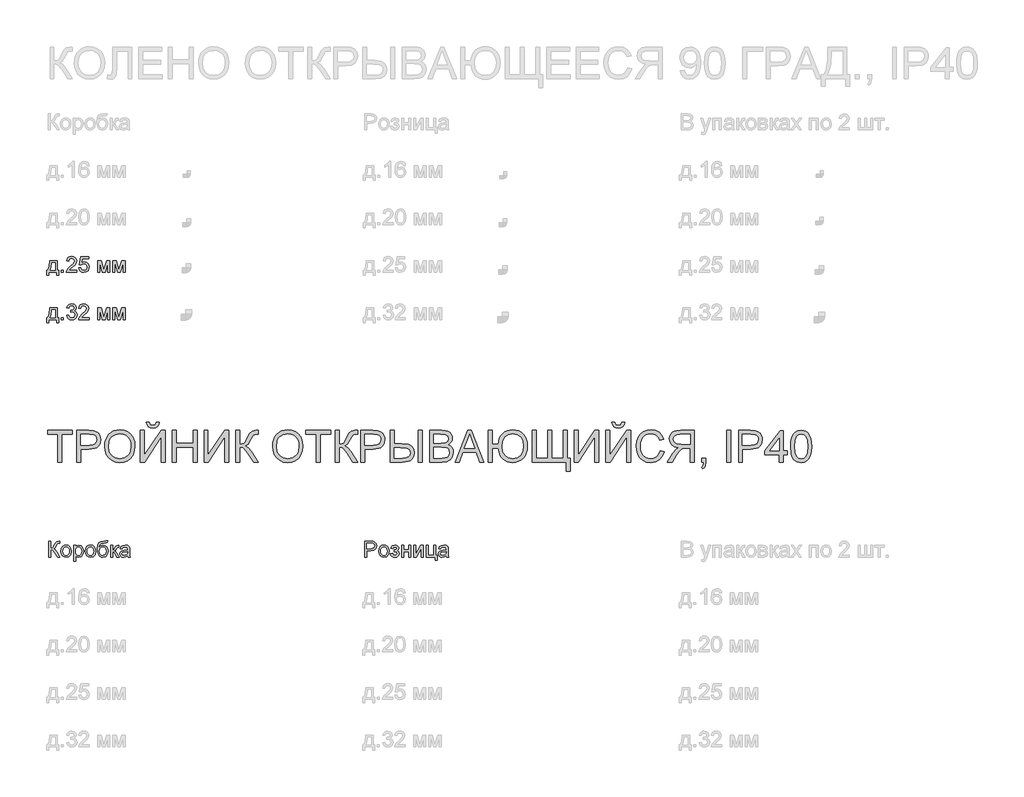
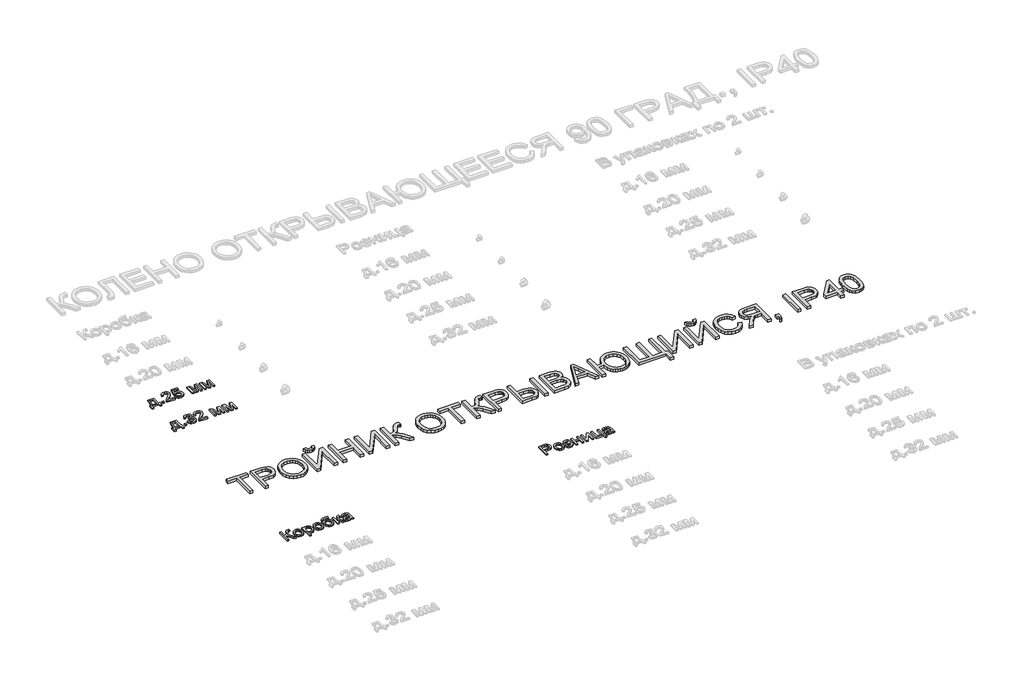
# One storey, part 68 of 98: 5 proxies.
"""IFC4 building model written with IfcOpenShell, lengths in millimetres."""

from ifc_helpers import new_model, si_unit, origin, origin_with_axes, place, context, project, spatial, polyline, outline, extrude, element, save

model = new_model("IFC4")

# Units and contexts
model_context = context("Model", 3, world=origin())
ifc_project = project(units=[si_unit("LENGTHUNIT", "METRE", prefix="MILLI")], contexts=[model_context])

# Site, building, storey
site = spatial("IfcSite", under=ifc_project)
building = spatial("IfcBuilding", under=site)
storey = spatial("IfcBuildingStorey", under=building, Name="Этаж 01", Elevation=0.0)

# Proxies
placement = place(None, origin())
element("IfcBuildingElementProxy", 1, Name="100", ObjectType="100", at=placement, inside=storey, context=model_context, shape_type="SweptSolid", body=[
    extrude(outline(polyline([(-26.9858135, -15985.7395637), (20.1030819, -15985.7395637), (20.1030819, -16046.9551277), (29.520861, -16046.9551277), (29.520861, -16079.9173545), (16.9638222, -16079.9173545), (16.9638222, -16059.5121665), (-34.8339627, -16059.5121665), (-34.8339627, -16079.9173545), (-47.3910015, -16079.9173545), (-47.3910015, -16046.9551277), (-39.5428522, -16046.9551277), (-29.8430303, -16023.0060098), (-26.9858135, -15985.7395637)]), holes=[polyline([(-15.9984045, -15998.2966025), (-18.9414605, -16026.905559), (-25.4161836, -16046.9551277), (7.5460431, -16046.9551277), (7.5460431, -15998.2966025), (-15.9984045, -15998.2966025)])]), origin_with_axes(), (0.0, 0.0, 1.0), 10.0),
    extrude(outline(polyline([(46.7867893, -16059.5121665), (46.7867893, -16046.9551277), (59.3438281, -16046.9551277), (59.3438281, -16059.5121665), (46.7867893, -16059.5121665)])), origin_with_axes(), (0.0, 0.0, 1.0), 10.0),
    extrude(outline(polyline([(144.1038398, -16046.9551277), (144.1038398, -16059.5121665), (78.1793862, -16059.5121665), (79.5282869, -16050.8546768), (87.1557069, -16037.5250859), (102.8765308, -16022.9692216), (124.5570431, -16002.0489988), (129.9771711, -15987.8242283), (124.8636114, -15976.3095219), (111.509495, -15971.6128951), (97.5912928, -15976.1991573), (92.3060548, -15988.8788234), (79.7490161, -15987.3091935), (82.7932396, -15975.1629563), (89.3752616, -15966.2908689), (99.1517256, -15960.8646095), (111.7792751, -15959.0558563), (124.4987951, -15961.0669445), (134.256865, -15967.1002093), (140.4648737, -15976.1133182), (142.5342099, -15987.0639389), (140.3023925, -15998.9710528), (132.8834389, -16011.2828369), (114.8940093, -16028.4874515), (100.4485097, -16040.5662437), (94.7831269, -16046.9551277), (144.1038398, -16046.9551277)])), origin_with_axes(), (0.0, 0.0, 1.0), 10.0),
    extrude(outline(polyline([(156.6608785, -16032.8284591), (169.2179173, -16031.2588292), (175.5454876, -16044.1960127), (188.6666121, -16048.5247575), (197.6674583, -16047.019507), (204.4119615, -16042.5037555), (208.6242103, -16035.4986692), (210.0282933, -16026.5254142), (204.7675808, -16011.6139307), (198.1610333, -16007.5120464), (188.8628158, -16006.1447517), (177.8386187, -16008.3275182), (170.7875471, -16013.9929009), (158.2305084, -16012.4232711), (169.2179173, -15960.6254862), (217.8764425, -15960.6254862), (217.8764425, -15973.1825249), (179.3714604, -15973.1825249), (174.0003832, -16000.847251), (182.9705725, -15995.4025974), (192.3699575, -15993.5877129), (204.1023275, -15995.8379245), (213.8420033, -16002.5885591), (220.3994999, -16012.8769922), (222.5853321, -16025.7405993), (220.6171634, -16038.2976381), (214.7126574, -16049.0397923), (203.4064174, -16058.0712953), (188.6175612, -16061.0817963), (176.2843173, -16059.1473501), (166.4588023, -16053.3440117), (159.7234961, -16044.3462312), (156.6608785, -16032.8284591)])), origin_with_axes(), (0.0, 0.0, 1.0), 10.0),
    extrude(outline(polyline([(275.9527468, -15985.7395637), (297.5596827, -15985.7395637), (314.2124743, -16044.7968867), (332.1651157, -15985.7395637), (352.8646093, -15985.7395637), (352.8646093, -16059.5121665), (340.3075705, -16059.5121665), (340.3075705, -16000.111487), (322.2568273, -16059.5121665), (305.7757139, -16059.5121665), (288.5097856, -15997.2665329), (288.5097856, -16059.5121665), (275.9527468, -16059.5121665), (275.9527468, -15985.7395637)])), origin_with_axes(), (0.0, 0.0, 1.0), 10.0),
    extrude(outline(polyline([(371.7001674, -15985.7395637), (393.3071033, -15985.7395637), (409.9598949, -16044.7968867), (427.9125363, -15985.7395637), (448.6120299, -15985.7395637), (448.6120299, -16059.5121665), (436.0549911, -16059.5121665), (436.0549911, -16000.111487), (418.0042479, -16059.5121665), (401.5231345, -16059.5121665), (384.2572062, -15997.2665329), (384.2572062, -16059.5121665), (371.7001674, -16059.5121665), (371.7001674, -15985.7395637)])), origin_with_axes(), (0.0, 0.0, 1.0), 10.0),
])
element("IfcBuildingElementProxy", 2, Name="100", ObjectType="100", at=placement, inside=storey, context=model_context, shape_type="SweptSolid", body=[
    extrude(outline(polyline([(-26.9858135, -16285.7395637), (20.1030819, -16285.7395637), (20.1030819, -16346.9551277), (29.520861, -16346.9551277), (29.520861, -16379.9173545), (16.9638222, -16379.9173545), (16.9638222, -16359.5121665), (-34.8339627, -16359.5121665), (-34.8339627, -16379.9173545), (-47.3910015, -16379.9173545), (-47.3910015, -16346.9551277), (-39.5428522, -16346.9551277), (-29.8430303, -16323.0060098), (-26.9858135, -16285.7395637)]), holes=[polyline([(-15.9984045, -16298.2966025), (-18.9414605, -16326.905559), (-25.4161836, -16346.9551277), (7.5460431, -16346.9551277), (7.5460431, -16298.2966025), (-15.9984045, -16298.2966025)])]), origin_with_axes(), (0.0, 0.0, 1.0), 10.0),
    extrude(outline(polyline([(46.7867893, -16359.5121665), (46.7867893, -16346.9551277), (59.3438281, -16346.9551277), (59.3438281, -16359.5121665), (46.7867893, -16359.5121665)])), origin_with_axes(), (0.0, 0.0, 1.0), 10.0),
    extrude(outline(polyline([(79.7490161, -16332.8284591), (92.3060548, -16331.2588292), (99.2344991, -16344.4780556), (112.196208, -16348.5247575), (120.8046467, -16347.1329373), (127.4510481, -16342.9574767), (133.1164308, -16329.1741646), (127.500099, -16316.1879302), (113.2262776, -16311.049845), (104.4216352, -16312.4232711), (105.8195868, -16299.8662323), (107.830675, -16300.0133851), (122.079971, -16296.4081416), (126.8256487, -16291.8341421), (128.4075413, -16285.3226308), (123.8212791, -16275.5001815), (112.0000043, -16271.6128951), (100.0315767, -16275.5369697), (93.8756847, -16287.3091935), (81.3186459, -16285.7395637), (85.01586, -16274.4639805), (91.5948163, -16266.0456142), (100.5956625, -16260.8032958), (111.5585459, -16259.0558563), (126.7030214, -16262.5016843), (137.2980228, -16271.9194634), (140.9645801, -16284.5868668), (137.4819638, -16296.1628869), (127.181268, -16304.47702), (140.8664782, -16313.0609332), (145.6734696, -16329.3948938), (143.2699739, -16341.6331015), (136.0594868, -16351.860221), (125.1763111, -16358.7764025), (111.7547496, -16361.0817963), (99.6146438, -16359.1136276), (89.7308809, -16353.2091216), (82.8576189, -16344.1776186), (79.7490161, -16332.8284591)])), origin_with_axes(), (0.0, 0.0, 1.0), 10.0),
    extrude(outline(polyline([(221.0157022, -16346.9551277), (221.0157022, -16359.5121665), (155.0912487, -16359.5121665), (156.4401493, -16350.8546768), (164.0675694, -16337.5250859), (179.7883933, -16322.9692216), (201.4689055, -16302.0489988), (206.8890336, -16287.8242283), (201.7754739, -16276.3095219), (188.4213574, -16271.6128951), (174.5031553, -16276.1991573), (169.2179173, -16288.8788234), (156.6608785, -16287.3091935), (159.705102, -16275.1629563), (166.2871241, -16266.2908689), (176.0635881, -16260.8646095), (188.6911376, -16259.0558563), (201.4106576, -16261.0669445), (211.1687275, -16267.1002093), (217.3767361, -16276.1133182), (219.4460724, -16287.0639389), (217.2142549, -16298.9710528), (209.7953014, -16311.2828369), (191.8058718, -16328.4874515), (177.3603721, -16340.5662437), (171.6949894, -16346.9551277), (221.0157022, -16346.9551277)])), origin_with_axes(), (0.0, 0.0, 1.0), 10.0),
    extrude(outline(polyline([(275.9527468, -16285.7395637), (297.5596827, -16285.7395637), (314.2124743, -16344.7968867), (332.1651157, -16285.7395637), (352.8646093, -16285.7395637), (352.8646093, -16359.5121665), (340.3075705, -16359.5121665), (340.3075705, -16300.111487), (322.2568273, -16359.5121665), (305.7757139, -16359.5121665), (288.5097856, -16297.2665329), (288.5097856, -16359.5121665), (275.9527468, -16359.5121665), (275.9527468, -16285.7395637)])), origin_with_axes(), (0.0, 0.0, 1.0), 10.0),
    extrude(outline(polyline([(371.7001674, -16285.7395637), (393.3071033, -16285.7395637), (409.9598949, -16344.7968867), (427.9125363, -16285.7395637), (448.6120299, -16285.7395637), (448.6120299, -16359.5121665), (436.0549911, -16359.5121665), (436.0549911, -16300.111487), (418.0042479, -16359.5121665), (401.5231345, -16359.5121665), (384.2572062, -16297.2665329), (384.2572062, -16359.5121665), (371.7001674, -16359.5121665), (371.7001674, -16285.7395637)])), origin_with_axes(), (0.0, 0.0, 1.0), 10.0),
])
element("IfcBuildingElementProxy", 3, Name="100", ObjectType="100", at=placement, inside=storey, context=model_context, shape_type="SweptSolid", body=[
    extrude(outline(polyline([(-33.5750144, -17759.0558563), (-21.0179757, -17759.0558563), (-21.0179757, -17803.005492), (-6.9771462, -17799.6822913), (2.8207776, -17782.8700841), (9.7492219, -17768.8292546), (17.5973711, -17761.8762849), (28.8177719, -17759.0558563), (37.0583286, -17759.2030091), (37.0583286, -17771.7600479), (34.2869509, -17771.6864715), (31.5155732, -17771.6128951), (21.7053867, -17774.6295274), (14.2496449, -17787.5544482), (5.3591634, -17803.2997976), (-3.310589, -17808.4991965), (6.3831016, -17814.1768419), (15.9419021, -17826.0103794), (37.0583286, -17859.5121665), (22.4902016, -17859.5121665), (4.6356621, -17831.2097783), (-7.9336394, -17816.4331848), (-21.0179757, -17812.4232711), (-21.0179757, -17859.5121665), (-33.5750144, -17859.5121665), (-33.5750144, -17759.0558563)])), origin_with_axes(), (0.0, 0.0, 1.0), 10.0),
    extrude(outline(polyline([(43.336848, -17822.6258651), (46.0530434, -17804.8387706), (54.2016296, -17792.3369141), (64.2693335, -17786.2116789), (76.3236003, -17784.1699338), (89.5152355, -17786.656203), (100.0519889, -17794.1150104), (106.9589734, -17805.957745), (109.2613016, -17821.5957955), (105.1900741, -17843.9384953), (93.3320112, -17856.5813732), (76.3236003, -17861.0817963), (62.9725495, -17858.6047242), (52.4480588, -17851.1735079), (45.6146507, -17839.082453), (43.336848, -17822.6258651)]), holes=[polyline([(55.8938868, -17822.6013396), (57.3470207, -17833.9658276), (61.7064223, -17842.0622972), (68.2669846, -17846.9091424), (76.3236003, -17848.5247575), (84.3434278, -17846.8999454), (90.8917273, -17842.025509), (95.2511289, -17833.8217405), (96.7042628, -17822.2089321), (95.2419319, -17811.175538), (90.8549391, -17803.189433), (84.2974425, -17798.3425877), (76.3236003, -17796.7269726), (68.2669846, -17798.3364563), (61.7064223, -17803.1649075), (57.3470207, -17811.242983), (55.8938868, -17822.6013396)])]), origin_with_axes(), (0.0, 0.0, 1.0), 10.0),
    extrude(outline(polyline([(123.3879702, -17887.7655037), (123.3879702, -17785.7395637), (135.9450089, -17785.7395637), (135.9450089, -17798.0513478), (144.627024, -17787.6402873), (156.3501969, -17784.1699338), (172.2672246, -17789.0259762), (182.6660223, -17802.7111864), (186.173164, -17822.0617793), (182.2123012, -17842.4056537), (170.7098575, -17856.2625422), (154.829618, -17861.0817963), (143.9035228, -17857.8566975), (135.9450089, -17849.7019799), (135.9450089, -17887.7655037), (123.3879702, -17887.7655037)]), holes=[polyline([(135.9450089, -17823.2144763), (137.3031066, -17834.4716653), (141.3773997, -17842.34434), (147.3892047, -17846.9796532), (154.5598379, -17848.5247575), (161.8469671, -17846.9244709), (168.0120562, -17842.1236108), (172.215108, -17833.9627619), (173.6161252, -17822.2825085), (172.2488305, -17811.0866332), (168.1469463, -17803.1035939), (162.1443384, -17798.3211279), (155.0748727, -17796.7269726), (147.9778159, -17798.4222955), (141.7452817, -17803.5082641), (137.3950771, -17811.8254628), (135.9450089, -17823.2144763)])]), origin_with_axes(), (0.0, 0.0, 1.0), 10.0),
    extrude(outline(polyline([(197.1605729, -17822.6258651), (199.8767683, -17804.8387706), (208.0253545, -17792.3369141), (218.0930585, -17786.2116789), (230.1473252, -17784.1699338), (243.3389604, -17786.656203), (253.8757139, -17794.1150104), (260.7826983, -17805.957745), (263.0850265, -17821.5957955), (259.0137991, -17843.9384953), (247.1557361, -17856.5813732), (230.1473252, -17861.0817963), (216.7962744, -17858.6047242), (206.2717837, -17851.1735079), (199.4383756, -17839.082453), (197.1605729, -17822.6258651)]), holes=[polyline([(209.7176117, -17822.6013396), (211.1707456, -17833.9658276), (215.5301472, -17842.0622972), (222.0907095, -17846.9091424), (230.1473252, -17848.5247575), (238.1671527, -17846.8999454), (244.7154522, -17842.025509), (249.0748538, -17833.8217405), (250.5279877, -17822.2089321), (249.0656568, -17811.175538), (244.678664, -17803.189433), (238.1211674, -17798.3425877), (230.1473252, -17796.7269726), (222.0907095, -17798.3364563), (215.5301472, -17803.1649075), (211.1707456, -17811.242983), (209.7176117, -17822.6013396)])]), origin_with_axes(), (0.0, 0.0, 1.0), 10.0),
    extrude(outline(polyline([(329.00948, -17757.4862265), (339.9968889, -17757.4862265), (336.7595274, -17767.2841503), (330.3583807, -17770.8280802), (314.9809133, -17771.6128951), (294.2691569, -17774.5069001), (286.3229058, -17783.7775264), (283.6373673, -17800.1850634), (294.5144116, -17788.1675849), (308.5307156, -17784.1699338), (321.5966578, -17786.7113853), (332.1977906, -17794.3357396), (339.2243367, -17806.2949702), (341.5665188, -17821.8410502), (336.9189429, -17843.447986), (325.8947458, -17856.4832714), (308.5307156, -17861.0817963), (297.1968845, -17859.6010713), (288.7018761, -17855.1588962), (277.8493572, -17840.002158), (274.0724354, -17807.8370089), (276.4544713, -17783.7438039), (283.6005791, -17769.0499838), (295.6885683, -17761.5543882), (312.8962486, -17759.0558563), (326.8757644, -17758.7738134), (329.00948, -17757.4862265)]), holes=[polyline([(329.00948, -17821.4486427), (327.6483166, -17811.5679454), (323.5648265, -17803.6554169), (317.0042642, -17798.4590837), (308.2118845, -17796.7269726), (299.0454915, -17798.5571855), (292.245806, -17804.0478243), (288.0335571, -17812.598015), (286.6294742, -17823.6068837), (288.1807099, -17834.2785273), (292.8344171, -17842.1113481), (299.7628614, -17846.9214052), (308.1383081, -17848.5247575), (316.5566745, -17846.6700191), (323.22147, -17841.105804), (327.5624775, -17832.4820369), (329.00948, -17821.4486427)])]), origin_with_axes(), (0.0, 0.0, 1.0), 10.0),
    extrude(outline(polyline([(357.2628172, -17785.7395637), (369.819856, -17785.7395637), (369.819856, -17817.1321606), (378.232091, -17814.8758177), (385.123747, -17801.7301677), (390.8504434, -17790.3871396), (395.9026895, -17786.6960569), (405.0874766, -17785.7395637), (407.4909723, -17785.7395637), (407.4909723, -17798.3701789), (404.106458, -17798.2966025), (397.9750914, -17799.6209776), (393.6586093, -17807.8860598), (388.5941005, -17816.8255923), (381.493978, -17821.203388), (389.4157036, -17826.0900872), (397.1902764, -17836.3846517), (410.630232, -17859.5121665), (396.3564106, -17859.5121665), (383.1862352, -17836.875161), (376.5643593, -17827.2979664), (369.819856, -17824.9803098), (369.819856, -17859.5121665), (357.2628172, -17859.5121665), (357.2628172, -17785.7395637)])), origin_with_axes(), (0.0, 0.0, 1.0), 10.0),
    extrude(outline(polyline([(465.5672766, -17850.0943874), (453.3903826, -17858.6047242), (439.9381643, -17861.0817963), (429.4443304, -17859.5918742), (421.7034801, -17855.122108), (416.9302112, -17848.3346852), (415.3391215, -17839.8917934), (417.7426172, -17829.9589795), (424.0579248, -17822.7484924), (432.8503045, -17818.6282141), (443.7150861, -17816.7397532), (465.4937002, -17812.4232711), (465.5672766, -17809.6273679), (462.1091859, -17800.3567416), (448.2277719, -17796.7269726), (435.5235803, -17799.142731), (429.4657902, -17807.7143815), (416.9087514, -17806.1447517), (422.3411422, -17793.8820185), (433.2795002, -17786.6960569), (449.8464527, -17784.1699338), (465.0645046, -17786.4017513), (473.6606805, -17792.0058203), (477.5111787, -17800.5284199), (478.1243154, -17811.5158288), (478.1243154, -17827.1385509), (478.7619775, -17848.9539532), (481.2635751, -17859.5121665), (468.7065363, -17859.5121665), (465.5672766, -17850.0943874)]), holes=[polyline([(465.5672766, -17824.9803098), (445.3092414, -17828.8308081), (434.5057735, -17830.8664218), (429.612943, -17834.1773597), (427.8961603, -17839.0088766), (431.6362939, -17845.8024308), (442.6114401, -17848.5247575), (455.3156317, -17845.5203879), (463.5071374, -17838.2485871), (465.4937002, -17828.5365025), (465.5672766, -17824.9803098)])]), origin_with_axes(), (0.0, 0.0, 1.0), 10.0),
])
element("IfcBuildingElementProxy", 4, Name="100", ObjectType="100", at=placement, inside=storey, context=model_context, shape_type="SweptSolid", body=[
    extrude(outline(polyline([(1963.5964075, -17859.5121665), (1963.5964075, -17759.0558563), (2000.8260654, -17759.0558563), (2015.8356508, -17760.0123495), (2028.0370703, -17764.7089763), (2035.9465332, -17774.421061), (2038.9386401, -17788.1185339), (2036.9183548, -17799.9582028), (2030.8574989, -17809.8235716), (2019.5236678, -17816.4822358), (2001.6844567, -17818.7017905), (1976.1534462, -17818.7017905), (1976.1534462, -17859.5121665), (1963.5964075, -17859.5121665)]), holes=[polyline([(1976.1534462, -17806.1447517), (2002.4202207, -17806.1447517), (2020.9124223, -17801.533964), (2025.0143065, -17795.9850773), (2026.3816013, -17788.5599923), (2023.1565025, -17778.1611946), (2014.6829539, -17772.4712864), (2002.1259151, -17771.6128951), (1976.1534462, -17771.6128951), (1976.1534462, -17806.1447517)])]), origin_with_axes(), (0.0, 0.0, 1.0), 10.0),
    extrude(outline(polyline([(2051.4956788, -17822.6258651), (2054.2118742, -17804.8387706), (2062.3604604, -17792.3369141), (2072.4281644, -17786.2116789), (2084.4824311, -17784.1699338), (2097.6740663, -17786.656203), (2108.2108198, -17794.1150104), (2115.1178042, -17805.957745), (2117.4201324, -17821.5957955), (2113.348905, -17843.9384953), (2101.490842, -17856.5813732), (2084.4824311, -17861.0817963), (2071.1313803, -17858.6047242), (2060.6068896, -17851.1735079), (2053.7734815, -17839.082453), (2051.4956788, -17822.6258651)]), holes=[polyline([(2064.0527176, -17822.6013396), (2065.5058515, -17833.9658276), (2069.8652531, -17842.0622972), (2076.4258154, -17846.9091424), (2084.4824311, -17848.5247575), (2092.5022586, -17846.8999454), (2099.0505581, -17842.025509), (2103.4099597, -17833.8217405), (2104.8630936, -17822.2089321), (2103.4007627, -17811.175538), (2099.0137699, -17803.189433), (2092.4562733, -17798.3425877), (2084.4824311, -17796.7269726), (2076.4258154, -17798.3364563), (2069.8652531, -17803.1649075), (2065.5058515, -17811.242983), (2064.0527176, -17822.6013396)])]), origin_with_axes(), (0.0, 0.0, 1.0), 10.0),
    extrude(outline(polyline([(2148.8127293, -17826.5499397), (2148.8127293, -17813.9929009), (2158.7210177, -17813.5023916), (2163.7242128, -17810.8904294), (2166.0786576, -17805.4335132), (2162.9271352, -17799.0936801), (2154.7969431, -17796.7269726), (2146.3969709, -17799.0814174), (2140.9645801, -17806.1447517), (2126.8379114, -17804.5751218), (2136.280216, -17789.2712308), (2153.5216188, -17784.1699338), (2164.0185184, -17785.7242353), (2171.9647695, -17790.3871396), (2176.9679647, -17797.2082849), (2178.6356964, -17805.2373094), (2176.2628575, -17813.0364077), (2169.1443409, -17819.0696725), (2177.4462112, -17826.8932962), (2180.2053262, -17838.1504853), (2178.4548211, -17847.3935204), (2173.2033056, -17854.7174378), (2164.806399, -17859.4907067), (2153.6197207, -17861.0817963), (2142.678297, -17859.6102683), (2134.3059159, -17855.1956844), (2128.5025775, -17847.8380445), (2125.2682816, -17837.5373486), (2139.3949502, -17835.9677188), (2145.0603329, -17845.238345), (2154.8214685, -17848.5247575), (2163.993993, -17845.3732351), (2167.6482874, -17837.3166194), (2165.3796818, -17830.719269), (2160.5481649, -17827.1876018), (2151.2652759, -17826.4763633), (2148.8127293, -17826.5499397)])), origin_with_axes(), (0.0, 0.0, 1.0), 10.0),
    extrude(outline(polyline([(2195.9016247, -17785.7395637), (2208.4586634, -17785.7395637), (2208.4586634, -17813.9929009), (2241.4208902, -17813.9929009), (2241.4208902, -17785.7395637), (2253.977929, -17785.7395637), (2253.977929, -17859.5121665), (2241.4208902, -17859.5121665), (2241.4208902, -17826.5499397), (2208.4586634, -17826.5499397), (2208.4586634, -17859.5121665), (2195.9016247, -17859.5121665), (2195.9016247, -17785.7395637)])), origin_with_axes(), (0.0, 0.0, 1.0), 10.0),
    extrude(outline(polyline([(2272.8134871, -17785.7395637), (2285.3705259, -17785.7395637), (2285.3705259, -17842.0009835), (2316.2235626, -17785.7395637), (2332.4594213, -17785.7395637), (2332.4594213, -17859.5121665), (2319.9023825, -17859.5121665), (2319.9023825, -17803.5941032), (2289.2455496, -17859.5121665), (2272.8134871, -17859.5121665), (2272.8134871, -17785.7395637)])), origin_with_axes(), (0.0, 0.0, 1.0), 10.0),
    extrude(outline(polyline([(2351.2949794, -17785.7395637), (2363.8520182, -17785.7395637), (2363.8520182, -17846.9551277), (2399.9535047, -17846.9551277), (2399.9535047, -17785.7395637), (2412.5105434, -17785.7395637), (2412.5105434, -17846.9551277), (2420.3586927, -17846.9551277), (2420.3586927, -17879.9173545), (2407.8016539, -17879.9173545), (2407.8016539, -17859.5121665), (2351.2949794, -17859.5121665), (2351.2949794, -17785.7395637)])), origin_with_axes(), (0.0, 0.0, 1.0), 10.0),
    extrude(outline(polyline([(2478.434997, -17850.0943874), (2466.2581029, -17858.6047242), (2452.8058846, -17861.0817963), (2442.3120507, -17859.5918742), (2434.5712004, -17855.122108), (2429.7979315, -17848.3346852), (2428.2068419, -17839.8917934), (2430.6103376, -17829.9589795), (2436.9256452, -17822.7484924), (2445.7180249, -17818.6282141), (2456.5828065, -17816.7397532), (2478.3614206, -17812.4232711), (2478.434997, -17809.6273679), (2474.9769062, -17800.3567416), (2461.0954923, -17796.7269726), (2448.3913007, -17799.142731), (2442.3335105, -17807.7143815), (2429.7764717, -17806.1447517), (2435.2088625, -17793.8820185), (2446.1472205, -17786.6960569), (2462.714173, -17784.1699338), (2477.9322249, -17786.4017513), (2486.5284009, -17792.0058203), (2490.3788991, -17800.5284199), (2490.9920357, -17811.5158288), (2490.9920357, -17827.1385509), (2491.6296979, -17848.9539532), (2494.1312954, -17859.5121665), (2481.5742567, -17859.5121665), (2478.434997, -17850.0943874)]), holes=[polyline([(2478.434997, -17824.9803098), (2458.1769618, -17828.8308081), (2447.3734938, -17830.8664218), (2442.4806633, -17834.1773597), (2440.7638807, -17839.0088766), (2444.5040143, -17845.8024308), (2455.4791605, -17848.5247575), (2468.183352, -17845.5203879), (2476.3748578, -17838.2485871), (2478.3614206, -17828.5365025), (2478.434997, -17824.9803098)])]), origin_with_axes(), (0.0, 0.0, 1.0), 10.0),
])
element("IfcBuildingElementProxy", 5, Name="200", ObjectType="200", at=placement, inside=storey, context=model_context, shape_type="SweptSolid", body=[
    extrude(outline(polyline([(24.8119715, -17259.5121665), (24.8119715, -17083.7136237), (-41.1124821, -17083.7136237), (-41.1124821, -17058.5995462), (115.8505025, -17058.5995462), (115.8505025, -17083.7136237), (49.926049, -17083.7136237), (49.926049, -17259.5121665), (24.8119715, -17259.5121665)])), origin_with_axes(), (0.0, 0.0, 1.0), 20.0),
    extrude(outline(polyline([(144.1038398, -17259.5121665), (144.1038398, -17058.5995462), (218.5631556, -17058.5995462), (248.5823264, -17060.5125325), (272.9851654, -17069.9057861), (281.8572528, -17078.232182), (288.8040912, -17089.3299555), (293.2922515, -17102.4204232), (294.788305, -17116.7249014), (290.7477344, -17140.4042392), (278.6260227, -17160.1349768), (268.9185365, -17167.9034183), (255.9583604, -17173.4523051), (220.2799382, -17177.8914145), (169.2179173, -17177.8914145), (169.2179173, -17259.5121665), (144.1038398, -17259.5121665)]), holes=[polyline([(169.2179173, -17152.7773369), (221.7514662, -17152.7773369), (244.0205896, -17150.4719431), (258.7358695, -17143.5557616), (266.9396379, -17132.4579881), (269.6742274, -17117.6078182), (268.061678, -17106.3261037), (263.2240298, -17096.8102227), (255.7621567, -17089.6487866), (246.2769325, -17085.4304063), (221.162855, -17083.7136237), (169.2179173, -17083.7136237), (169.2179173, -17152.7773369)])]), origin_with_axes(), (0.0, 0.0, 1.0), 20.0),
    extrude(outline(polyline([(319.9023825, -17161.7046067), (321.5762456, -17138.1386992), (326.5978348, -17117.2767244), (334.9671502, -17099.1186822), (346.6841918, -17083.6645728), (361.046918, -17071.3251975), (377.3532874, -17062.511358), (395.6033001, -17057.2230544), (415.7969559, -17055.4602865), (442.1495695, -17058.7712244), (465.7798563, -17068.7040383), (485.4002294, -17084.5597523), (499.7231018, -17105.6393906), (508.4786932, -17130.9251464), (511.3972237, -17159.3992128), (508.3254091, -17188.253424), (499.1099651, -17213.8947991), (484.2597952, -17235.0112256), (464.2838029, -17250.2905911), (440.8558512, -17259.5612174), (415.6498031, -17262.6514262), (388.8925193, -17259.236255), (365.1273425, -17248.9907414), (345.5560203, -17232.8407218), (331.3803008, -17211.7120326), (322.7718621, -17187.401164), (319.9023825, -17161.7046067)]), holes=[polyline([(345.0164601, -17161.9498613), (350.0380493, -17193.3792465), (365.102817, -17217.3283643), (387.7459538, -17232.4851025), (415.5026503, -17237.5373486), (443.6640171, -17232.4360516), (466.3439421, -17217.1321606), (475.0673439, -17205.8596431), (481.2983452, -17192.4472787), (486.2831462, -17159.2030091), (484.1494306, -17136.9706739), (477.7482839, -17117.754971), (467.2452529, -17102.0402784), (452.8058846, -17090.3109741), (435.3866722, -17083.0085165), (415.9441087, -17080.574364), (388.9293075, -17085.2648594), (365.9612083, -17099.3363458), (356.7978809, -17110.2854336), (350.2526471, -17124.3707155), (345.0164601, -17161.9498613)])]), origin_with_axes(), (0.0, 0.0, 1.0), 20.0),
    extrude(outline(polyline([(646.3853905, -17008.3713911), (665.2209487, -17008.3713911), (661.1681153, -17024.4539656), (653.0317919, -17036.3058973), (641.1798603, -17043.6083549), (625.9802025, -17046.0425074), (609.4868264, -17043.626749), (596.6967957, -17036.3794737), (587.9534669, -17024.5459361), (583.6001967, -17008.3713911), (602.4357548, -17008.3713911), (609.4990891, -17022.5225852), (623.7238596, -17027.2069492), (639.3220562, -17022.669738), (646.3853905, -17008.3713911)])), origin_with_axes(), (0.0, 0.0, 1.0), 20.0),
    extrude(outline(polyline([(545.9290804, -17058.5995462), (571.0431579, -17058.5995462), (571.0431579, -17217.7207718), (676.2083576, -17058.5995462), (702.892065, -17058.5995462), (702.892065, -17259.5121665), (677.7779874, -17259.5121665), (677.7779874, -17100.8323992), (572.8580424, -17259.5121665), (545.9290804, -17259.5121665), (545.9290804, -17058.5995462)])), origin_with_axes(), (0.0, 0.0, 1.0), 20.0),
    extrude(outline(polyline([(746.8417007, -17259.5121665), (746.8417007, -17058.5995462), (771.9557782, -17058.5995462), (771.9557782, -17140.2202982), (878.6906077, -17140.2202982), (878.6906077, -17058.5995462), (903.8046853, -17058.5995462), (903.8046853, -17259.5121665), (878.6906077, -17259.5121665), (878.6906077, -17165.3343757), (771.9557782, -17165.3343757), (771.9557782, -17259.5121665), (746.8417007, -17259.5121665)])), origin_with_axes(), (0.0, 0.0, 1.0), 20.0),
    extrude(outline(polyline([(947.754321, -17058.5995462), (972.8683985, -17058.5995462), (972.8683985, -17217.7207718), (1078.0335982, -17058.5995462), (1104.7173056, -17058.5995462), (1104.7173056, -17259.5121665), (1079.603228, -17259.5121665), (1079.603228, -17100.8323992), (974.683283, -17259.5121665), (947.754321, -17259.5121665), (947.754321, -17058.5995462)])), origin_with_axes(), (0.0, 0.0, 1.0), 20.0),
    extrude(outline(polyline([(1148.6669412, -17058.5995462), (1173.7810188, -17058.5995462), (1173.7810188, -17146.4988175), (1190.7832983, -17144.8372172), (1201.8626778, -17139.8524162), (1210.8206043, -17128.1231119), (1221.4585254, -17106.2280018), (1235.3154138, -17078.1463428), (1251.0117123, -17064.2404034), (1273.452514, -17058.5995462), (1289.9336274, -17058.8938518), (1289.9336274, -17084.0079293), (1284.390872, -17083.8607765), (1278.8481166, -17083.7136237), (1267.3456729, -17085.2219399), (1259.2277435, -17089.7468884), (1244.31626, -17115.5967299), (1226.5352969, -17147.0874287), (1209.1957922, -17157.4862265), (1228.5831733, -17168.8415174), (1247.7007744, -17192.5085924), (1289.9336274, -17259.5121665), (1260.7973734, -17259.5121665), (1225.0882944, -17202.9073901), (1199.9496914, -17173.3542032), (1188.3430144, -17167.3393326), (1173.7810188, -17165.3343757), (1173.7810188, -17259.5121665), (1148.6669412, -17259.5121665), (1148.6669412, -17058.5995462)])), origin_with_axes(), (0.0, 0.0, 1.0), 20.0),
    extrude(outline(polyline([(1380.9721585, -17161.7046067), (1382.6460215, -17138.1386992), (1387.6676108, -17117.2767244), (1396.0369262, -17099.1186822), (1407.7539677, -17083.6645728), (1422.1166939, -17071.3251975), (1438.4230634, -17062.511358), (1456.673076, -17057.2230544), (1476.8667319, -17055.4602865), (1503.2193455, -17058.7712244), (1526.8496323, -17068.7040383), (1546.4700054, -17084.5597523), (1560.7928777, -17105.6393906), (1569.5484692, -17130.9251464), (1572.4669997, -17159.3992128), (1569.395185, -17188.253424), (1560.1797411, -17213.8947991), (1545.3295712, -17235.0112256), (1525.3535788, -17250.2905911), (1501.9256271, -17259.5612174), (1476.7195791, -17262.6514262), (1449.9622953, -17259.236255), (1426.1971184, -17248.9907414), (1406.6257963, -17232.8407218), (1392.4500767, -17211.7120326), (1383.841638, -17187.401164), (1380.9721585, -17161.7046067)]), holes=[polyline([(1406.086236, -17161.9498613), (1411.1078252, -17193.3792465), (1426.1725929, -17217.3283643), (1448.8157297, -17232.4851025), (1476.5724263, -17237.5373486), (1504.733793, -17232.4360516), (1527.413718, -17217.1321606), (1536.1371198, -17205.8596431), (1542.3681211, -17192.4472787), (1547.3529222, -17159.2030091), (1545.2192066, -17136.9706739), (1538.8180599, -17117.754971), (1528.3150289, -17102.0402784), (1513.8756606, -17090.3109741), (1496.4564481, -17083.0085165), (1477.0138847, -17080.574364), (1449.9990835, -17085.2648594), (1427.0309843, -17099.3363458), (1417.8676569, -17110.2854336), (1411.3224231, -17124.3707155), (1406.086236, -17161.9498613)])]), origin_with_axes(), (0.0, 0.0, 1.0), 20.0),
    extrude(outline(polyline([(1657.2270114, -17259.5121665), (1657.2270114, -17083.7136237), (1591.3025578, -17083.7136237), (1591.3025578, -17058.5995462), (1748.2655425, -17058.5995462), (1748.2655425, -17083.7136237), (1682.3410889, -17083.7136237), (1682.3410889, -17259.5121665), (1657.2270114, -17259.5121665)])), origin_with_axes(), (0.0, 0.0, 1.0), 20.0),
    extrude(outline(polyline([(1776.5188797, -17058.5995462), (1801.6329572, -17058.5995462), (1801.6329572, -17146.4988175), (1818.6352368, -17144.8372172), (1829.7146162, -17139.8524162), (1838.6725428, -17128.1231119), (1849.3104638, -17106.2280018), (1863.1673523, -17078.1463428), (1878.8636507, -17064.2404034), (1901.3044524, -17058.5995462), (1917.7855658, -17058.8938518), (1917.7855658, -17084.0079293), (1912.2428104, -17083.8607765), (1906.700055, -17083.7136237), (1895.1976113, -17085.2219399), (1887.079682, -17089.7468884), (1872.1681984, -17115.5967299), (1854.3872353, -17147.0874287), (1837.0477306, -17157.4862265), (1856.4351118, -17168.8415174), (1875.5527128, -17192.5085924), (1917.7855658, -17259.5121665), (1888.6493118, -17259.5121665), (1852.9402328, -17202.9073901), (1827.8016298, -17173.3542032), (1816.1949529, -17167.3393326), (1801.6329572, -17165.3343757), (1801.6329572, -17259.5121665), (1776.5188797, -17259.5121665), (1776.5188797, -17058.5995462)])), origin_with_axes(), (0.0, 0.0, 1.0), 20.0),
    extrude(outline(polyline([(1939.7603837, -17259.5121665), (1939.7603837, -17058.5995462), (2014.2196995, -17058.5995462), (2044.2388703, -17060.5125325), (2068.6417093, -17069.9057861), (2077.5137968, -17078.232182), (2084.4606351, -17089.3299555), (2088.9487955, -17102.4204232), (2090.4448489, -17116.7249014), (2086.4042783, -17140.4042392), (2074.2825666, -17160.1349768), (2064.5750804, -17167.9034183), (2051.6149043, -17173.4523051), (2015.9364821, -17177.8914145), (1964.8744612, -17177.8914145), (1964.8744612, -17259.5121665), (1939.7603837, -17259.5121665)]), holes=[polyline([(1964.8744612, -17152.7773369), (2017.4080101, -17152.7773369), (2039.6771336, -17150.4719431), (2054.3924134, -17143.5557616), (2062.5961819, -17132.4579881), (2065.3307714, -17117.6078182), (2063.718222, -17106.3261037), (2058.8805737, -17096.8102227), (2051.4187006, -17089.6487866), (2041.9334765, -17085.4304063), (2016.8193989, -17083.7136237), (1964.8744612, -17083.7136237), (1964.8744612, -17152.7773369)])]), origin_with_axes(), (0.0, 0.0, 1.0), 20.0),
    extrude(outline(polyline([(2300.7752483, -17058.5995462), (2325.8893258, -17058.5995462), (2325.8893258, -17259.5121665), (2300.7752483, -17259.5121665), (2300.7752483, -17058.5995462)])), origin_with_axes(), (0.0, 0.0, 1.0), 20.0),
    extrude(outline(polyline([(2124.9767055, -17058.5995462), (2150.0907831, -17058.5995462), (2150.0907831, -17143.3595578), (2198.3569008, -17143.3595578), (2237.6344352, -17147.7496163), (2251.1939524, -17153.2371894), (2260.7006363, -17160.9197918), (2271.9210371, -17179.657248), (2275.6611707, -17200.7491491), (2271.7064393, -17222.7791492), (2259.8422449, -17241.8783562), (2250.2359263, -17249.5931482), (2237.2358963, -17255.1037139), (2201.0547021, -17259.5121665), (2124.9767055, -17259.5121665), (2124.9767055, -17058.5995462)]), holes=[polyline([(2150.0907831, -17234.3980889), (2200.8094475, -17234.3980889), (2223.3667451, -17232.4053948), (2238.7503439, -17226.4273124), (2247.5979059, -17216.0591715), (2250.5470932, -17200.8963019), (2248.7628655, -17189.9456812), (2243.4101825, -17180.9325723), (2235.2309395, -17174.3474846), (2224.9670318, -17170.6809274), (2187.2223391, -17168.4736354), (2150.0907831, -17168.4736354), (2150.0907831, -17234.3980889)])]), origin_with_axes(), (0.0, 0.0, 1.0), 20.0),
    extrude(outline(polyline([(2372.9782212, -17259.5121665), (2372.9782212, -17058.5995462), (2449.644829, -17058.5995462), (2470.7305987, -17060.0772055), (2487.193318, -17064.5101835), (2499.8116704, -17072.0088449), (2509.3643395, -17082.6835541), (2515.3792102, -17095.2405929), (2517.384167, -17108.3862428), (2515.6980412, -17120.4834291), (2510.6396638, -17131.8571141), (2502.1722465, -17141.8083221), (2490.2590013, -17149.6380772), (2504.4899031, -17157.0692935), (2515.0051968, -17168.3755335), (2521.498314, -17182.8087705), (2523.6626864, -17199.6209776), (2517.752049, -17226.6235161), (2503.1103456, -17245.8514817), (2481.2581551, -17256.0540757), (2449.0562178, -17259.5121665), (2372.9782212, -17259.5121665)]), holes=[polyline([(2398.0922987, -17140.2202982), (2443.9549208, -17140.2202982), (2470.73673, -17138.0620571), (2486.8499614, -17128.7669054), (2492.2700895, -17112.4084193), (2487.2178434, -17096.0254078), (2472.7478183, -17086.3378486), (2440.4723046, -17083.7136237), (2398.0922987, -17083.7136237), (2398.0922987, -17140.2202982)]), polyline([(2398.0922987, -17234.3980889), (2449.5957781, -17234.3980889), (2468.2351325, -17233.4170703), (2484.0050073, -17227.9478913), (2494.452856, -17216.7888041), (2498.5486089, -17199.8662323), (2493.7416175, -17180.3439611), (2487.444704, -17173.2867582), (2478.1679464, -17168.6943646), (2447.1432314, -17165.3343757), (2398.0922987, -17165.3343757), (2398.0922987, -17234.3980889)])]), origin_with_axes(), (0.0, 0.0, 1.0), 20.0),
    extrude(outline(polyline([(2534.7972481, -17259.5121665), (2614.9955231, -17058.5995462), (2636.3817297, -17058.5995462), (2716.5800047, -17259.5121665), (2690.0434501, -17259.5121665), (2667.0385627, -17196.7269726), (2584.2896392, -17196.7269726), (2561.3338027, -17259.5121665), (2534.7972481, -17259.5121665)]), holes=[polyline([(2593.5112146, -17171.6128951), (2657.8660383, -17171.6128951), (2639.7662441, -17122.2186059), (2625.6886264, -17083.7136237), (2613.1806386, -17117.9021238), (2593.5112146, -17171.6128951)])]), origin_with_axes(), (0.0, 0.0, 1.0), 20.0),
    extrude(outline(polyline([(2743.4108649, -17058.5995462), (2768.5249424, -17058.5995462), (2768.5249424, -17146.4988175), (2806.1960587, -17146.4988175), (2809.0915966, -17126.7558171), (2814.8351542, -17109.1220068), (2823.4267317, -17093.5973866), (2834.8663289, -17080.1819565), (2848.4978896, -17069.3662259), (2863.6653577, -17061.640704), (2880.3687332, -17057.0053908), (2898.6080159, -17055.4602865), (2917.8083904, -17057.1862662), (2935.2858508, -17062.3642052), (2951.0403973, -17070.9941037), (2965.0720297, -17083.0759616), (2976.5959332, -17098.1131381), (2984.8272928, -17115.6089927), (2989.7661086, -17135.5635252), (2991.4123806, -17157.9767358), (2989.7645758, -17181.2345421), (2984.8211615, -17201.8098755), (2976.5821376, -17219.7027361), (2965.0475042, -17234.9131237), (2950.9468939, -17247.048631), (2935.0099393, -17255.7168505), (2917.2366404, -17260.9177822), (2897.6269973, -17262.6514262), (2879.7418009, -17261.1400443), (2863.4139717, -17256.6058987), (2848.6435096, -17249.0489894), (2835.4304146, -17238.4693163), (2824.2774588, -17225.2224988), (2815.6874142, -17209.6641561), (2806.1960587, -17171.6128951), (2768.5249424, -17171.6128951), (2768.5249424, -17259.5121665), (2743.4108649, -17259.5121665), (2743.4108649, -17058.5995462)]), holes=[polyline([(2831.3101363, -17160.1349768), (2835.9515808, -17192.802898), (2849.8759143, -17217.2302625), (2871.3418287, -17232.4605771), (2898.6080159, -17237.5373486), (2926.3524497, -17232.442183), (2947.8796778, -17217.1566861), (2961.6936467, -17192.3062573), (2966.298303, -17158.516296), (2961.7672231, -17126.118155), (2948.1739834, -17101.4210104), (2926.8552218, -17085.7860256), (2899.1475762, -17080.574364), (2871.0168663, -17085.8534706), (2849.5080323, -17101.6907905), (2835.8596103, -17126.8600504), (2831.3101363, -17160.1349768)])]), origin_with_axes(), (0.0, 0.0, 1.0), 20.0),
    extrude(outline(polyline([(3022.8049775, -17058.5995462), (3047.919055, -17058.5995462), (3047.919055, -17234.3980889), (3120.1220279, -17234.3980889), (3120.1220279, -17058.5995462), (3145.2361055, -17058.5995462), (3145.2361055, -17234.3980889), (3217.4390784, -17234.3980889), (3217.4390784, -17058.5995462), (3242.5531559, -17058.5995462), (3242.5531559, -17234.3980889), (3261.3887141, -17234.3980889), (3261.3887141, -17316.0188409), (3236.2746365, -17316.0188409), (3236.2746365, -17259.5121665), (3022.8049775, -17259.5121665), (3022.8049775, -17058.5995462)])), origin_with_axes(), (0.0, 0.0, 1.0), 20.0),
    extrude(outline(polyline([(3286.5027916, -17058.5995462), (3311.6168692, -17058.5995462), (3311.6168692, -17217.7207718), (3416.7820688, -17058.5995462), (3443.4657762, -17058.5995462), (3443.4657762, -17259.5121665), (3418.3516987, -17259.5121665), (3418.3516987, -17100.8323992), (3313.4317537, -17259.5121665), (3286.5027916, -17259.5121665), (3286.5027916, -17058.5995462)])), origin_with_axes(), (0.0, 0.0, 1.0), 20.0),
    extrude(outline(polyline([(3487.4154119, -17058.5995462), (3512.5294895, -17058.5995462), (3512.5294895, -17217.7207718), (3617.6946891, -17058.5995462), (3644.3783965, -17058.5995462), (3644.3783965, -17259.5121665), (3619.264319, -17259.5121665), (3619.264319, -17100.8323992), (3514.344374, -17259.5121665), (3487.4154119, -17259.5121665), (3487.4154119, -17058.5995462)])), origin_with_axes(), (0.0, 0.0, 1.0), 20.0),
    extrude(outline(polyline([(3587.8717221, -17008.3713911), (3606.7072802, -17008.3713911), (3602.6544469, -17024.4539656), (3594.5181234, -17036.3058973), (3582.6661918, -17043.6083549), (3567.4665341, -17046.0425074), (3550.973158, -17043.626749), (3538.1831273, -17036.3794737), (3529.4397985, -17024.5459361), (3525.0865282, -17008.3713911), (3543.9220864, -17008.3713911), (3550.9854207, -17022.5225852), (3565.2101912, -17027.2069492), (3580.8083878, -17022.669738), (3587.8717221, -17008.3713911)])), origin_with_axes(), (0.0, 0.0, 1.0), 20.0),
    extrude(outline(polyline([(3829.5947184, -17188.0940085), (3854.7087959, -17194.5687316), (3843.1205131, -17223.8337443), (3824.9348798, -17245.2138196), (3801.0470755, -17258.2920245), (3772.3522799, -17262.6514262), (3743.2221573, -17259.3527509), (3720.0885111, -17249.4567253), (3702.356599, -17233.3067057), (3689.4316782, -17211.2460487), (3681.5406094, -17185.310368), (3678.9102531, -17157.5352774), (3681.8839659, -17128.2396078), (3690.8051043, -17102.9415893), (3705.2076844, -17082.4444308), (3724.6257224, -17067.5513414), (3747.6551353, -17058.4830502), (3772.8918402, -17055.4602865), (3800.4278075, -17059.3720983), (3823.1935717, -17071.107534), (3840.4778941, -17089.9430921), (3851.5695362, -17115.1552716), (3826.4554587, -17121.1394853), (3817.7489181, -17102.8250933), (3805.8540669, -17090.2619232), (3790.6237523, -17082.9962538), (3771.9108215, -17080.574364), (3750.3406739, -17083.2599026), (3732.6210244, -17091.3165183), (3719.1749375, -17103.8980825), (3710.4254774, -17120.1584667), (3705.6246174, -17138.5403037), (3704.0243307, -17157.4862265), (3705.918923, -17180.6873176), (3711.6026998, -17200.7491491), (3721.290259, -17216.9053001), (3735.1961984, -17228.3893497), (3751.8673842, -17235.2503489), (3769.8506824, -17237.5373486), (3790.8138247, -17234.4226144), (3808.2820881, -17225.0784117), (3821.4706576, -17209.6028424), (3829.5947184, -17188.0940085)])), origin_with_axes(), (0.0, 0.0, 1.0), 20.0),
    extrude(outline(polyline([(4046.2036371, -17259.5121665), (4021.0895596, -17259.5121665), (4021.0895596, -17171.6128951), (3990.7760832, -17171.6128951), (3976.2079562, -17172.4958119), (3964.2640541, -17177.2782778), (3950.9957768, -17190.3013004), (3932.1111677, -17217.8679246), (3905.9670206, -17259.5121665), (3876.7817156, -17259.5121665), (3910.2835026, -17205.0656312), (3930.6396397, -17179.2157896), (3944.9134611, -17168.4736354), (3920.1733969, -17161.8149713), (3902.8522863, -17149.78523), (3892.643561, -17133.377693), (3889.2406525, -17113.5856417), (3891.2946603, -17097.6747454), (3897.4566837, -17083.1985889), (3907.0584038, -17071.5244669), (3919.4315016, -17064.0196742), (3936.3602047, -17059.9545782), (3959.6287409, -17058.5995462), (4046.2036371, -17058.5995462), (4046.2036371, -17259.5121665)]), holes=[polyline([(4021.0895596, -17146.4988175), (4021.0895596, -17083.7136237), (3958.5496204, -17083.7136237), (3938.6778613, -17085.8841275), (3924.974257, -17092.3956388), (3917.0096118, -17102.267139), (3914.3547301, -17114.5176094), (3919.9220109, -17131.5628085), (3926.7768788, -17138.3195745), (3936.2069206, -17142.9426249), (3964.8771907, -17146.4988175), (4021.0895596, -17146.4988175)])]), origin_with_axes(), (0.0, 0.0, 1.0), 20.0),
    extrude(outline(polyline([(4093.2925325, -17259.5121665), (4093.2925325, -17234.3980889), (4118.40661, -17234.3980889), (4118.40661, -17259.5121665), (4113.8939242, -17285.1903297), (4108.0568632, -17293.8662134), (4099.5710519, -17300.3225425), (4093.2925325, -17290.9047634), (4102.5141079, -17280.0645073), (4105.8005203, -17259.5121665), (4093.2925325, -17259.5121665)])), origin_with_axes(), (0.0, 0.0, 1.0), 20.0),
    extrude(outline(polyline([(4250.2555171, -17259.5121665), (4250.2555171, -17058.5995462), (4275.3695947, -17058.5995462), (4275.3695947, -17259.5121665), (4250.2555171, -17259.5121665)])), origin_with_axes(), (0.0, 0.0, 1.0), 20.0),
    extrude(outline(polyline([(4325.5977497, -17259.5121665), (4325.5977497, -17058.5995462), (4400.0570656, -17058.5995462), (4430.0762364, -17060.5125325), (4454.4790754, -17069.9057861), (4463.3511628, -17078.232182), (4470.2980012, -17089.3299555), (4474.7861615, -17102.4204232), (4476.282215, -17116.7249014), (4472.2416444, -17140.4042392), (4460.1199326, -17160.1349768), (4450.4124465, -17167.9034183), (4437.4522704, -17173.4523051), (4401.7738482, -17177.8914145), (4350.7118273, -17177.8914145), (4350.7118273, -17259.5121665), (4325.5977497, -17259.5121665)]), holes=[polyline([(4350.7118273, -17152.7773369), (4403.2453762, -17152.7773369), (4425.5144996, -17150.4719431), (4440.2297794, -17143.5557616), (4448.4335479, -17132.4579881), (4451.1681374, -17117.6078182), (4449.555588, -17106.3261037), (4444.7179398, -17096.8102227), (4437.2560666, -17089.6487866), (4427.7708425, -17085.4304063), (4402.656765, -17083.7136237), (4350.7118273, -17083.7136237), (4350.7118273, -17152.7773369)])]), origin_with_axes(), (0.0, 0.0, 1.0), 20.0),
    extrude(outline(polyline([(4583.0170445, -17259.5121665), (4583.0170445, -17212.4232711), (4491.9785134, -17212.4232711), (4491.9785134, -17187.3091935), (4589.2955639, -17061.7388059), (4608.131122, -17061.7388059), (4608.131122, -17187.3091935), (4633.2451996, -17187.3091935), (4633.2451996, -17212.4232711), (4608.131122, -17212.4232711), (4608.131122, -17259.5121665), (4583.0170445, -17259.5121665)]), holes=[polyline([(4583.0170445, -17187.3091935), (4583.0170445, -17109.710618), (4522.880601, -17187.3091935), (4583.0170445, -17187.3091935)])]), origin_with_axes(), (0.0, 0.0, 1.0), 20.0),
    extrude(outline(polyline([(4655.2200174, -17160.6745371), (4657.0655588, -17128.5155193), (4662.6021828, -17102.8680129), (4671.7747072, -17083.3396103), (4684.5279497, -17069.5379041), (4700.9538808, -17061.3341357), (4721.1444709, -17058.5995462), (4736.6200402, -17060.2182269), (4750.4769287, -17065.0742693), (4762.0652115, -17072.9776008), (4770.7349639, -17083.7381492), (4782.5071877, -17113.4630144), (4787.0689245, -17160.6745371), (4785.2417772, -17192.6496138), (4779.7603355, -17218.2358066), (4770.6429934, -17237.7826033), (4757.908145, -17251.6394918), (4741.4454257, -17259.8984426), (4721.1444709, -17262.6514262), (4695.0493748, -17257.8689602), (4675.2327979, -17243.5215624), (4666.4772065, -17228.3924153), (4660.2232125, -17209.5415288), (4655.2200174, -17160.6745371)]), holes=[polyline([(4680.3340949, -17160.6254862), (4683.2771509, -17200.1298811), (4692.1063188, -17222.9937471), (4705.2519688, -17233.9014482), (4721.1444709, -17237.5373486), (4737.0369731, -17233.8891855), (4750.1826231, -17222.9446961), (4759.011791, -17200.0685674), (4761.9548469, -17160.6254862), (4759.1098928, -17122.0101394), (4750.5750306, -17098.9684638), (4737.4539061, -17087.5273337), (4720.8501653, -17083.7136237), (4705.1293414, -17087.0736126), (4692.4987263, -17097.1535793), (4683.3752528, -17121.6299947), (4680.3340949, -17160.6254862)])]), origin_with_axes(), (0.0, 0.0, 1.0), 20.0),
])

save(model, "model.ifc")
